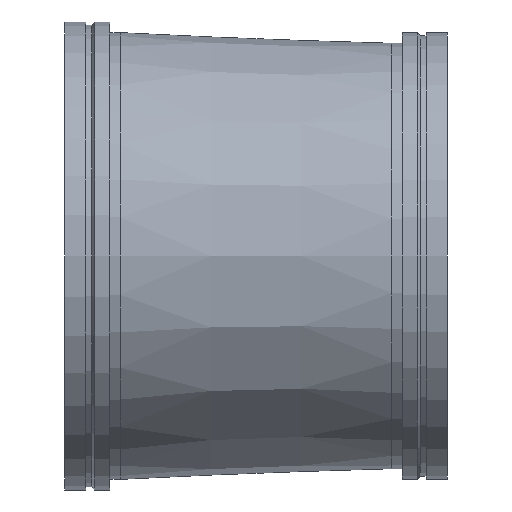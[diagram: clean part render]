
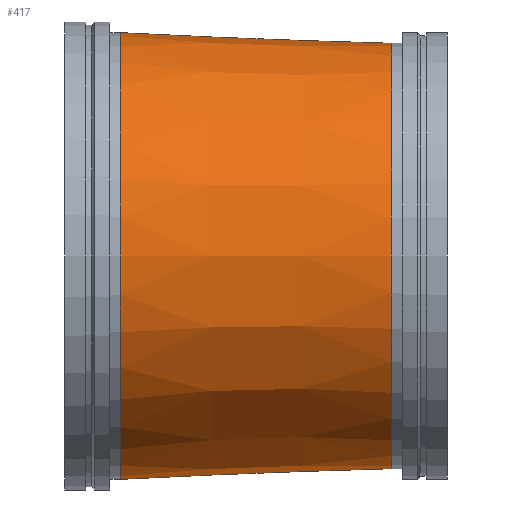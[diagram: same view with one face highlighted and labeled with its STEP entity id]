
A CAD part, front view. The second image highlights one B-rep face of the part: STEP entity #417.
In plain terms, the highlighted conical face has half-angle 2.246 degrees and reference radius 520.7 mm.
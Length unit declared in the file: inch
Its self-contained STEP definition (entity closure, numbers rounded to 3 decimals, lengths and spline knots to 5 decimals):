
#46=CONICAL_SURFACE('',#475,20.5,0.039);
#54=LINE('',#739,#68);
#68=VECTOR('',#587,20.5);
#101=FACE_OUTER_BOUND('',#124,.T.);
#124=EDGE_LOOP('',(#315,#316,#317,#318,#319,#320));
#155=CIRCLE('',#473,21.);
#156=CIRCLE('',#474,21.);
#157=CIRCLE('',#476,20.);
#158=CIRCLE('',#477,20.);
#195=VERTEX_POINT('',#729);
#196=VERTEX_POINT('',#730);
#197=VERTEX_POINT('',#735);
#198=VERTEX_POINT('',#736);
#239=EDGE_CURVE('',#195,#196,#155,.T.);
#240=EDGE_CURVE('',#196,#195,#156,.T.);
#242=EDGE_CURVE('',#197,#198,#157,.T.);
#243=EDGE_CURVE('',#198,#197,#158,.T.);
#244=EDGE_CURVE('',#198,#196,#54,.T.);
#315=ORIENTED_EDGE('',*,*,#242,.F.);
#316=ORIENTED_EDGE('',*,*,#243,.F.);
#317=ORIENTED_EDGE('',*,*,#244,.T.);
#318=ORIENTED_EDGE('',*,*,#240,.T.);
#319=ORIENTED_EDGE('',*,*,#239,.T.);
#320=ORIENTED_EDGE('',*,*,#244,.F.);
#417=ADVANCED_FACE('',(#101),#46,.T.);
#473=AXIS2_PLACEMENT_3D('',#731,#576,#577);
#474=AXIS2_PLACEMENT_3D('',#732,#578,#579);
#475=AXIS2_PLACEMENT_3D('',#734,#581,#582);
#476=AXIS2_PLACEMENT_3D('',#737,#583,#584);
#477=AXIS2_PLACEMENT_3D('',#738,#585,#586);
#576=DIRECTION('center_axis',(1.,0.,0.));
#577=DIRECTION('ref_axis',(0.,0.,-1.));
#578=DIRECTION('center_axis',(1.,0.,0.));
#579=DIRECTION('ref_axis',(0.,0.,-1.));
#581=DIRECTION('center_axis',(-1.,0.,0.));
#582=DIRECTION('ref_axis',(0.,1.,0.));
#583=DIRECTION('center_axis',(1.,0.,0.));
#584=DIRECTION('ref_axis',(0.,0.,-1.));
#585=DIRECTION('center_axis',(1.,0.,0.));
#586=DIRECTION('ref_axis',(0.,0.,-1.));
#587=DIRECTION('',(-0.999,-0.039,0.));
#729=CARTESIAN_POINT('',(5.25,21.,0.));
#730=CARTESIAN_POINT('',(5.25,-21.,0.));
#731=CARTESIAN_POINT('Origin',(5.25,0.,0.));
#732=CARTESIAN_POINT('Origin',(5.25,0.,0.));
#734=CARTESIAN_POINT('Origin',(18.,0.,0.));
#735=CARTESIAN_POINT('',(30.75,20.,0.));
#736=CARTESIAN_POINT('',(30.75,-20.,0.));
#737=CARTESIAN_POINT('Origin',(30.75,0.,0.));
#738=CARTESIAN_POINT('Origin',(30.75,0.,0.));
#739=CARTESIAN_POINT('',(18.,-20.5,0.));
